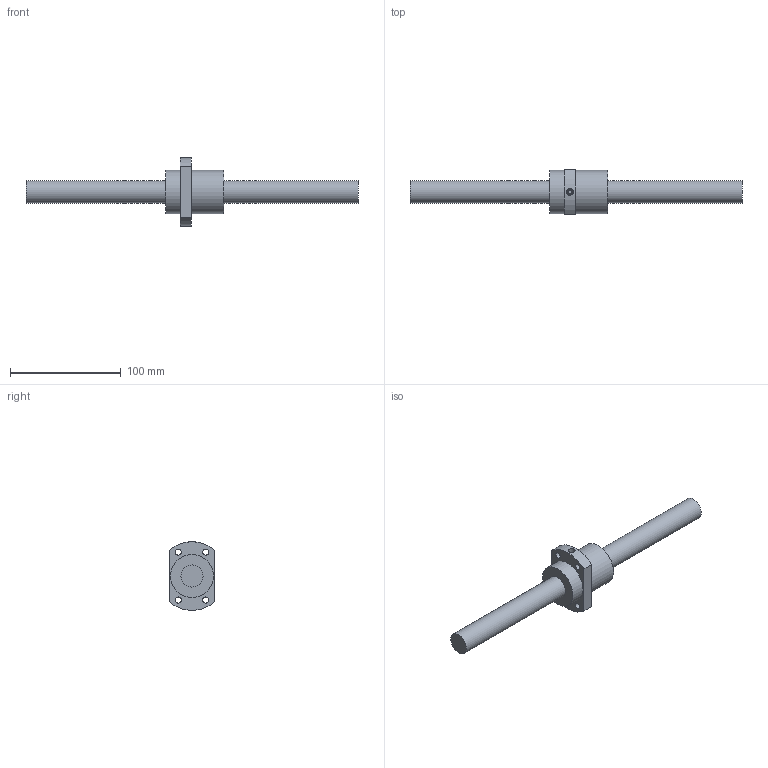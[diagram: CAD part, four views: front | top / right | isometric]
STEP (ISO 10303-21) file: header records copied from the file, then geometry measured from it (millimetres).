
FILE_DESCRIPTION((''),'2;1');
FILE_NAME('C:\Documents and Settings\土屋\My Documents\土屋移動用フォルダ\製品 (図面3D用)\カタログ用3D\ネジ\BSD-A\BSD2020A.stp','2018-12-15T09:52:08',('y'),(''),'Autodesk Inventor 11','Autodesk Inventor 11','');
FILE_SCHEMA(('AUTOMOTIVE_DESIGN { 1 0 10303 214 1 1 1 1 }'));
Length unit declared in the file: millimetre
Products named in the file (3): BSD2020A; BSD20ネジ軸
Assembly tree (2 placements, depth 2):
  BSD2020A
    BSD20ネジ軸
    BSD2020A
Bounding box: 300 x 41 x 61.9 mm (x, y, z)
Volume: 150329.2 mm3; surface area: 34443.7 mm2
Topology: 2 solids, 2 shells, 23 faces, 45 edges, 30 vertices
Faces by surface type: plane 10, cylinder 8, bspline 4, cone 1
Full cylindrical faces by diameter (mm): 3 x1, 6 x1, 20 x2, 39 x2
Entity records: 758 total; most frequent: CARTESIAN_POINT 226, DIRECTION 104, ORIENTED_EDGE 68, AXIS2_PLACEMENT_3D 48, EDGE_LOOP 48, EDGE_CURVE 34, VERTEX_POINT 30, FACE_BOUND 25
